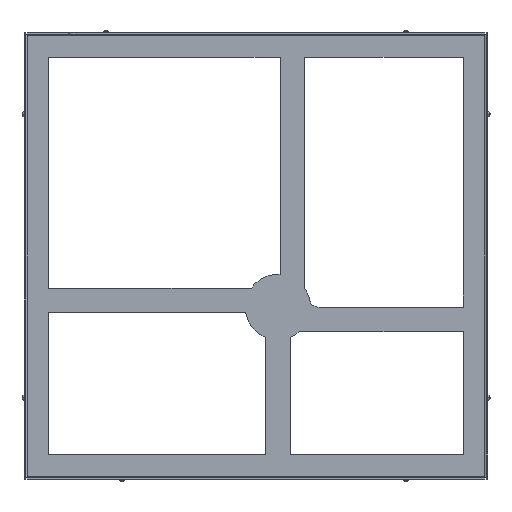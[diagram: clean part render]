
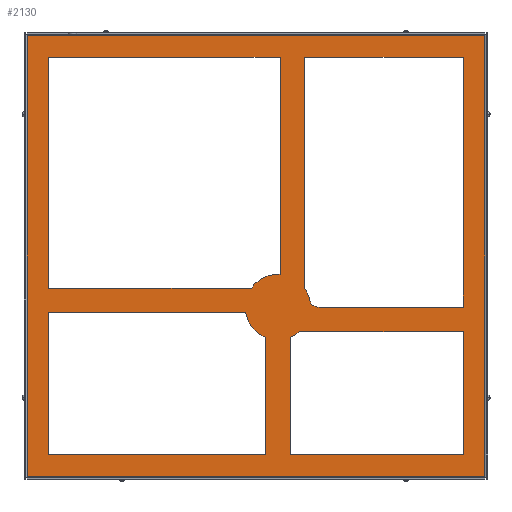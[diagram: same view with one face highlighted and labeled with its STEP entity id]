
A CAD part, front view. The second image highlights one B-rep face of the part: STEP entity #2130.
In plain terms, the highlighted planar face has unit normal (0, -1, 0).
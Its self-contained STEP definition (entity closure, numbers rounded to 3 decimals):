
#1=DIRECTION('',(-1.,0.,0.));
#2=VECTOR('',#1,20.029);
#3=CARTESIAN_POINT('',(25.355,3.,-9.24));
#4=LINE('',#3,#2);
#5=CARTESIAN_POINT('',(2.68,3.,-6.24));
#6=DIRECTION('',(0.,1.,0.));
#7=DIRECTION('',(0.661,0.,-0.75));
#8=AXIS2_PLACEMENT_3D('',#5,#6,#7);
#10=DIRECTION('',(0.,0.,-1.));
#11=VECTOR('',#10,14.372);
#12=CARTESIAN_POINT('',(4.18,3.,-9.948));
#13=LINE('',#12,#11);
#14=DIRECTION('',(1.,0.,0.));
#15=VECTOR('',#14,21.175);
#16=CARTESIAN_POINT('',(4.18,3.,-24.32));
#17=LINE('',#16,#15);
#18=DIRECTION('',(0.,0.,1.));
#19=VECTOR('',#18,15.08);
#20=CARTESIAN_POINT('',(25.355,3.,-24.32));
#21=LINE('',#20,#19);
#22=DIRECTION('',(0.,0.,1.));
#23=VECTOR('',#22,26.568);
#24=CARTESIAN_POINT('',(2.94,3.,-2.248));
#25=LINE('',#24,#23);
#26=DIRECTION('',(-1.,0.,0.));
#27=VECTOR('',#26,28.295);
#28=CARTESIAN_POINT('',(2.94,3.,24.32));
#29=LINE('',#28,#27);
#30=DIRECTION('',(0.,0.,-1.));
#31=VECTOR('',#30,28.24);
#32=CARTESIAN_POINT('',(-25.355,3.,24.32));
#33=LINE('',#32,#31);
#34=DIRECTION('',(1.,0.,0.));
#35=VECTOR('',#34,24.777);
#36=CARTESIAN_POINT('',(-25.355,3.,-3.92));
#37=LINE('',#36,#35);
#38=CARTESIAN_POINT('',(2.68,3.,-6.24));
#39=DIRECTION('',(0.,1.,0.));
#40=DIRECTION('',(-0.815,0.,0.58));
#41=AXIS2_PLACEMENT_3D('',#38,#39,#40);
#43=DIRECTION('',(-1.,0.,0.));
#44=VECTOR('',#43,24.093);
#45=CARTESIAN_POINT('',(-1.262,3.,-6.92));
#46=LINE('',#45,#44);
#47=DIRECTION('',(0.,0.,-1.));
#48=VECTOR('',#47,17.4);
#49=CARTESIAN_POINT('',(-25.355,3.,-6.92));
#50=LINE('',#49,#48);
#51=DIRECTION('',(1.,0.,0.));
#52=VECTOR('',#51,26.535);
#53=CARTESIAN_POINT('',(-25.355,3.,-24.32));
#54=LINE('',#53,#52);
#55=DIRECTION('',(0.,0.,1.));
#56=VECTOR('',#55,14.372);
#57=CARTESIAN_POINT('',(1.18,3.,-24.32));
#58=LINE('',#57,#56);
#59=CARTESIAN_POINT('',(2.68,3.,-6.24));
#60=DIRECTION('',(0.,1.,0.));
#61=DIRECTION('',(-0.375,0.,-0.927));
#62=AXIS2_PLACEMENT_3D('',#59,#60,#61);
#64=CARTESIAN_POINT('',(2.68,3.,-6.24));
#65=DIRECTION('',(0.,1.,0.));
#66=DIRECTION('',(0.815,0.,0.579));
#67=AXIS2_PLACEMENT_3D('',#64,#65,#66);
#69=DIRECTION('',(1.,0.,0.));
#70=VECTOR('',#69,17.776);
#71=CARTESIAN_POINT('',(7.579,3.,-6.24));
#72=LINE('',#71,#70);
#73=DIRECTION('',(0.,0.,1.));
#74=VECTOR('',#73,30.56);
#75=CARTESIAN_POINT('',(25.355,3.,-6.24));
#76=LINE('',#75,#74);
#77=DIRECTION('',(-1.,0.,0.));
#78=VECTOR('',#77,19.415);
#79=CARTESIAN_POINT('',(25.355,3.,24.32));
#80=LINE('',#79,#78);
#81=DIRECTION('',(0.,0.,-1.));
#82=VECTOR('',#81,28.242);
#83=CARTESIAN_POINT('',(5.94,3.,24.32));
#84=LINE('',#83,#82);
#96=DIRECTION('',(0.,0.,-1.));
#97=VECTOR('',#96,53.84);
#98=CARTESIAN_POINT('',(-27.955,3.,26.92));
#99=LINE('',#98,#97);
#589=DIRECTION('',(1.,0.,0.));
#590=VECTOR('',#589,55.91);
#591=CARTESIAN_POINT('',(-27.955,3.,-26.92));
#592=LINE('',#591,#590);
#1066=DIRECTION('',(0.,0.,1.));
#1067=VECTOR('',#1066,53.84);
#1068=CARTESIAN_POINT('',(27.955,3.,-26.92));
#1069=LINE('',#1068,#1067);
#1284=DIRECTION('',(-1.,0.,0.));
#1285=VECTOR('',#1284,55.91);
#1286=CARTESIAN_POINT('',(27.955,3.,26.92));
#1287=LINE('',#1286,#1285);
#1607=CARTESIAN_POINT('',(7.579,3.,-5.24));
#1608=DIRECTION('',(0.,1.,0.));
#1609=DIRECTION('',(0.,0.,-1.));
#1610=AXIS2_PLACEMENT_3D('',#1607,#1608,#1609);
#1657=CARTESIAN_POINT('',(27.955,3.,26.92));
#1658=CARTESIAN_POINT('',(-27.955,3.,26.92));
#1659=VERTEX_POINT('',#1657);
#1660=VERTEX_POINT('',#1658);
#1689=CARTESIAN_POINT('',(-27.955,3.,-26.92));
#1690=CARTESIAN_POINT('',(27.955,3.,-26.92));
#1691=VERTEX_POINT('',#1689);
#1692=VERTEX_POINT('',#1690);
#1957=CARTESIAN_POINT('',(25.355,3.,-6.24));
#1958=CARTESIAN_POINT('',(25.355,3.,24.32));
#1959=VERTEX_POINT('',#1957);
#1960=VERTEX_POINT('',#1958);
#1961=CARTESIAN_POINT('',(5.94,3.,24.32));
#1962=VERTEX_POINT('',#1961);
#1963=CARTESIAN_POINT('',(25.355,3.,-9.24));
#1964=CARTESIAN_POINT('',(5.326,3.,-9.24));
#1965=VERTEX_POINT('',#1963);
#1966=VERTEX_POINT('',#1964);
#1967=CARTESIAN_POINT('',(4.18,3.,-9.948));
#1968=CARTESIAN_POINT('',(4.18,3.,-24.32));
#1969=VERTEX_POINT('',#1967);
#1970=VERTEX_POINT('',#1968);
#1971=CARTESIAN_POINT('',(25.355,3.,-24.32));
#1972=VERTEX_POINT('',#1971);
#1973=CARTESIAN_POINT('',(2.94,3.,-2.248));
#1974=CARTESIAN_POINT('',(2.94,3.,24.32));
#1975=VERTEX_POINT('',#1973);
#1976=VERTEX_POINT('',#1974);
#1977=CARTESIAN_POINT('',(-25.355,3.,24.32));
#1978=VERTEX_POINT('',#1977);
#1979=CARTESIAN_POINT('',(-25.355,3.,-3.92));
#1980=VERTEX_POINT('',#1979);
#1981=CARTESIAN_POINT('',(-1.262,3.,-6.92));
#1982=CARTESIAN_POINT('',(-25.355,3.,-6.92));
#1983=VERTEX_POINT('',#1981);
#1984=VERTEX_POINT('',#1982);
#1985=CARTESIAN_POINT('',(-25.355,3.,-24.32));
#1986=VERTEX_POINT('',#1985);
#1987=CARTESIAN_POINT('',(1.18,3.,-24.32));
#1988=VERTEX_POINT('',#1987);
#2021=CARTESIAN_POINT('',(5.94,3.,-3.922));
#2022=VERTEX_POINT('',#2021);
#2023=CARTESIAN_POINT('',(-0.578,3.,-3.92));
#2024=VERTEX_POINT('',#2023);
#2025=CARTESIAN_POINT('',(1.18,3.,-9.948));
#2026=VERTEX_POINT('',#2025);
#2057=CARTESIAN_POINT('',(7.579,3.,-6.24));
#2059=VERTEX_POINT('',#2057);
#2061=CARTESIAN_POINT('',(6.599,3.,-5.44));
#2063=VERTEX_POINT('',#2061);
#2065=CARTESIAN_POINT('',(0.,3.,0.));
#2066=DIRECTION('',(0.,1.,0.));
#2067=DIRECTION('',(1.,0.,0.));
#2068=AXIS2_PLACEMENT_3D('',#2065,#2066,#2067);
#2069=PLANE('',#2068);
#2071=ORIENTED_EDGE('',*,*,#2070,.F.);
#2073=ORIENTED_EDGE('',*,*,#2072,.F.);
#2075=ORIENTED_EDGE('',*,*,#2074,.F.);
#2077=ORIENTED_EDGE('',*,*,#2076,.F.);
#2078=EDGE_LOOP('',(#2071,#2073,#2075,#2077));
#2079=FACE_OUTER_BOUND('',#2078,.F.);
#2081=ORIENTED_EDGE('',*,*,#2080,.T.);
#2083=ORIENTED_EDGE('',*,*,#2082,.T.);
#2085=ORIENTED_EDGE('',*,*,#2084,.T.);
#2087=ORIENTED_EDGE('',*,*,#2086,.T.);
#2089=ORIENTED_EDGE('',*,*,#2088,.T.);
#2090=EDGE_LOOP('',(#2081,#2083,#2085,#2087,#2089));
#2091=FACE_BOUND('',#2090,.F.);
#2093=ORIENTED_EDGE('',*,*,#2092,.T.);
#2095=ORIENTED_EDGE('',*,*,#2094,.T.);
#2097=ORIENTED_EDGE('',*,*,#2096,.T.);
#2099=ORIENTED_EDGE('',*,*,#2098,.T.);
#2101=ORIENTED_EDGE('',*,*,#2100,.T.);
#2102=EDGE_LOOP('',(#2093,#2095,#2097,#2099,#2101));
#2103=FACE_BOUND('',#2102,.F.);
#2105=ORIENTED_EDGE('',*,*,#2104,.T.);
#2107=ORIENTED_EDGE('',*,*,#2106,.T.);
#2109=ORIENTED_EDGE('',*,*,#2108,.T.);
#2111=ORIENTED_EDGE('',*,*,#2110,.T.);
#2113=ORIENTED_EDGE('',*,*,#2112,.T.);
#2114=EDGE_LOOP('',(#2105,#2107,#2109,#2111,#2113));
#2115=FACE_BOUND('',#2114,.F.);
#2117=ORIENTED_EDGE('',*,*,#2116,.T.);
#2119=ORIENTED_EDGE('',*,*,#2118,.F.);
#2121=ORIENTED_EDGE('',*,*,#2120,.T.);
#2123=ORIENTED_EDGE('',*,*,#2122,.T.);
#2125=ORIENTED_EDGE('',*,*,#2124,.T.);
#2127=ORIENTED_EDGE('',*,*,#2126,.T.);
#2128=EDGE_LOOP('',(#2117,#2119,#2121,#2123,#2125,#2127));
#2129=FACE_BOUND('',#2128,.F.);
#2130=ADVANCED_FACE('',(#2079,#2091,#2103,#2115,#2129),#2069,.F.);
#9=CIRCLE('',#8,4.);
#42=CIRCLE('',#41,4.);
#63=CIRCLE('',#62,4.);
#68=CIRCLE('',#67,4.);
#1611=CIRCLE('',#1610,1.);
#2070=EDGE_CURVE('',#1660,#1691,#99,.T.);
#2072=EDGE_CURVE('',#1659,#1660,#1287,.T.);
#2074=EDGE_CURVE('',#1692,#1659,#1069,.T.);
#2076=EDGE_CURVE('',#1691,#1692,#592,.T.);
#2080=EDGE_CURVE('',#1965,#1966,#4,.T.);
#2082=EDGE_CURVE('',#1966,#1969,#9,.T.);
#2084=EDGE_CURVE('',#1969,#1970,#13,.T.);
#2086=EDGE_CURVE('',#1970,#1972,#17,.T.);
#2088=EDGE_CURVE('',#1972,#1965,#21,.T.);
#2092=EDGE_CURVE('',#1975,#1976,#25,.T.);
#2094=EDGE_CURVE('',#1976,#1978,#29,.T.);
#2096=EDGE_CURVE('',#1978,#1980,#33,.T.);
#2098=EDGE_CURVE('',#1980,#2024,#37,.T.);
#2100=EDGE_CURVE('',#2024,#1975,#42,.T.);
#2104=EDGE_CURVE('',#1983,#1984,#46,.T.);
#2106=EDGE_CURVE('',#1984,#1986,#50,.T.);
#2108=EDGE_CURVE('',#1986,#1988,#54,.T.);
#2110=EDGE_CURVE('',#1988,#2026,#58,.T.);
#2112=EDGE_CURVE('',#2026,#1983,#63,.T.);
#2116=EDGE_CURVE('',#2022,#2063,#68,.T.);
#2118=EDGE_CURVE('',#2059,#2063,#1611,.T.);
#2120=EDGE_CURVE('',#2059,#1959,#72,.T.);
#2122=EDGE_CURVE('',#1959,#1960,#76,.T.);
#2124=EDGE_CURVE('',#1960,#1962,#80,.T.);
#2126=EDGE_CURVE('',#1962,#2022,#84,.T.);
